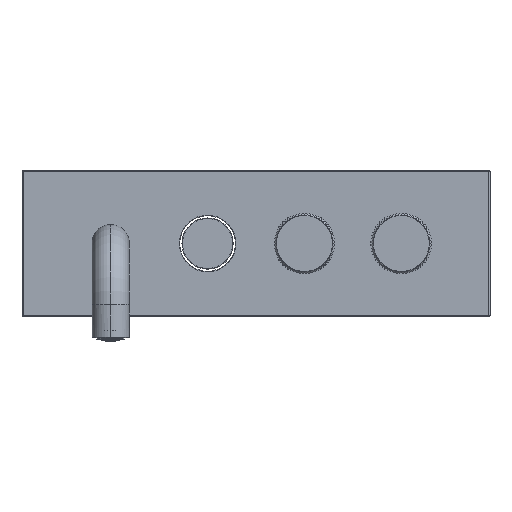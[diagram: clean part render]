
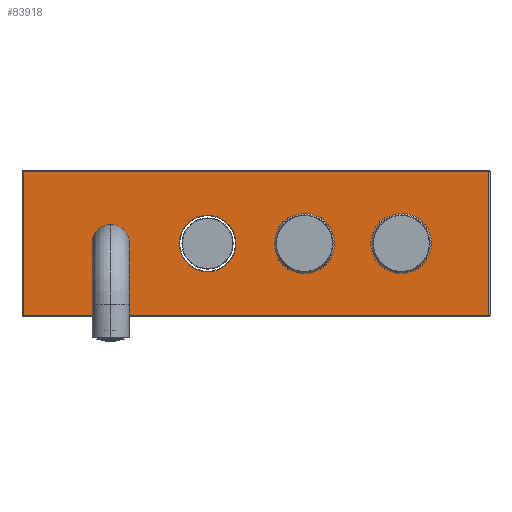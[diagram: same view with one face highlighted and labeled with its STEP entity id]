
A CAD part, top view. The second image highlights one B-rep face of the part: STEP entity #83918.
In plain terms, the highlighted planar face has unit normal (0, 0, 1).
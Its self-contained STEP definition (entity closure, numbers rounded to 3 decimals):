
#25151=DIRECTION('',(-1.,0.,0.));
#25152=VECTOR('',#25151,226.);
#25153=CARTESIAN_POINT('',(113.,35.,92.5));
#25154=LINE('',#25153,#25152);
#25155=DIRECTION('',(0.,1.,0.));
#25156=VECTOR('',#25155,70.);
#25157=CARTESIAN_POINT('',(113.,-35.,92.5));
#25158=LINE('',#25157,#25156);
#25159=DIRECTION('',(1.,0.,0.));
#25160=VECTOR('',#25159,226.);
#25161=CARTESIAN_POINT('',(-113.,-35.,92.5));
#25162=LINE('',#25161,#25160);
#25163=DIRECTION('',(0.,-1.,0.));
#25164=VECTOR('',#25163,70.);
#25165=CARTESIAN_POINT('',(-113.,35.,92.5));
#25166=LINE('',#25165,#25164);
#25167=CARTESIAN_POINT('',(-23.5,0.,92.5));
#25168=DIRECTION('',(0.,0.,-1.));
#25169=DIRECTION('',(-1.,0.,0.));
#25170=AXIS2_PLACEMENT_3D('',#25167,#25168,#25169);
#25172=CARTESIAN_POINT('',(-23.5,0.,92.5));
#25173=DIRECTION('',(0.,0.,-1.));
#25174=DIRECTION('',(1.,0.,0.));
#25175=AXIS2_PLACEMENT_3D('',#25172,#25173,#25174);
#25177=CARTESIAN_POINT('',(70.5,0.,92.5));
#25178=DIRECTION('',(0.,0.,-1.));
#25179=DIRECTION('',(-1.,0.,0.));
#25180=AXIS2_PLACEMENT_3D('',#25177,#25178,#25179);
#25182=CARTESIAN_POINT('',(70.5,0.,92.5));
#25183=DIRECTION('',(0.,0.,-1.));
#25184=DIRECTION('',(1.,0.,0.));
#25185=AXIS2_PLACEMENT_3D('',#25182,#25183,#25184);
#25187=CARTESIAN_POINT('',(23.5,0.,92.5));
#25188=DIRECTION('',(0.,0.,-1.));
#25189=DIRECTION('',(-1.,0.,0.));
#25190=AXIS2_PLACEMENT_3D('',#25187,#25188,#25189);
#25192=CARTESIAN_POINT('',(23.5,0.,92.5));
#25193=DIRECTION('',(0.,0.,-1.));
#25194=DIRECTION('',(1.,0.,0.));
#25195=AXIS2_PLACEMENT_3D('',#25192,#25193,#25194);
#25197=CARTESIAN_POINT('',(-70.5,0.,92.5));
#25198=DIRECTION('',(0.,0.,1.));
#25199=DIRECTION('',(0.,1.,0.));
#25200=AXIS2_PLACEMENT_3D('',#25197,#25198,#25199);
#25202=CARTESIAN_POINT('',(-70.5,0.,92.5));
#25203=DIRECTION('',(0.,0.,1.));
#25204=DIRECTION('',(0.,-1.,0.));
#25205=AXIS2_PLACEMENT_3D('',#25202,#25203,#25204);
#52256=CARTESIAN_POINT('',(113.,35.,92.5));
#52257=CARTESIAN_POINT('',(-113.,35.,92.5));
#52258=VERTEX_POINT('',#52256);
#52259=VERTEX_POINT('',#52257);
#52272=CARTESIAN_POINT('',(-113.,-35.,92.5));
#52273=VERTEX_POINT('',#52272);
#52282=CARTESIAN_POINT('',(113.,-35.,92.5));
#52283=VERTEX_POINT('',#52282);
#52404=CARTESIAN_POINT('',(-37.2,0.,92.5));
#52405=CARTESIAN_POINT('',(-9.8,0.,92.5));
#52406=VERTEX_POINT('',#52404);
#52407=VERTEX_POINT('',#52405);
#52420=CARTESIAN_POINT('',(63.3,0.,92.5));
#52421=CARTESIAN_POINT('',(77.7,0.,92.5));
#52422=VERTEX_POINT('',#52420);
#52423=VERTEX_POINT('',#52421);
#52436=CARTESIAN_POINT('',(16.3,0.,92.5));
#52437=CARTESIAN_POINT('',(30.7,0.,92.5));
#52438=VERTEX_POINT('',#52436);
#52439=VERTEX_POINT('',#52437);
#53120=CARTESIAN_POINT('',(-70.5,8.8,92.5));
#53121=CARTESIAN_POINT('',(-70.5,-8.8,92.5));
#53122=VERTEX_POINT('',#53120);
#53123=VERTEX_POINT('',#53121);
#83881=CARTESIAN_POINT('',(0.,0.,92.5));
#83882=DIRECTION('',(0.,0.,1.));
#83883=DIRECTION('',(1.,0.,0.));
#83884=AXIS2_PLACEMENT_3D('',#83881,#83882,#83883);
#83885=PLANE('',#83884);
#83886=ORIENTED_EDGE('',*,*,#83766,.F.);
#83888=ORIENTED_EDGE('',*,*,#83887,.F.);
#83889=ORIENTED_EDGE('',*,*,#83874,.F.);
#83891=ORIENTED_EDGE('',*,*,#83890,.F.);
#83892=EDGE_LOOP('',(#83886,#83888,#83889,#83891));
#83893=FACE_OUTER_BOUND('',#83892,.F.);
#83895=ORIENTED_EDGE('',*,*,#83894,.F.);
#83897=ORIENTED_EDGE('',*,*,#83896,.F.);
#83898=EDGE_LOOP('',(#83895,#83897));
#83899=FACE_BOUND('',#83898,.F.);
#83901=ORIENTED_EDGE('',*,*,#83900,.F.);
#83903=ORIENTED_EDGE('',*,*,#83902,.F.);
#83904=EDGE_LOOP('',(#83901,#83903));
#83905=FACE_BOUND('',#83904,.F.);
#83907=ORIENTED_EDGE('',*,*,#83906,.F.);
#83909=ORIENTED_EDGE('',*,*,#83908,.F.);
#83910=EDGE_LOOP('',(#83907,#83909));
#83911=FACE_BOUND('',#83910,.F.);
#83913=ORIENTED_EDGE('',*,*,#83912,.T.);
#83915=ORIENTED_EDGE('',*,*,#83914,.T.);
#83916=EDGE_LOOP('',(#83913,#83915));
#83917=FACE_BOUND('',#83916,.F.);
#83918=ADVANCED_FACE('',(#83893,#83899,#83905,#83911,#83917),#83885,.T.);
#25171=CIRCLE('',#25170,13.7);
#25176=CIRCLE('',#25175,13.7);
#25181=CIRCLE('',#25180,7.2);
#25186=CIRCLE('',#25185,7.2);
#25191=CIRCLE('',#25190,7.2);
#25196=CIRCLE('',#25195,7.2);
#25201=CIRCLE('',#25200,8.8);
#25206=CIRCLE('',#25205,8.8);
#83766=EDGE_CURVE('',#52258,#52259,#25154,.T.);
#83874=EDGE_CURVE('',#52273,#52283,#25162,.T.);
#83887=EDGE_CURVE('',#52283,#52258,#25158,.T.);
#83890=EDGE_CURVE('',#52259,#52273,#25166,.T.);
#83894=EDGE_CURVE('',#52406,#52407,#25171,.T.);
#83896=EDGE_CURVE('',#52407,#52406,#25176,.T.);
#83900=EDGE_CURVE('',#52422,#52423,#25181,.T.);
#83902=EDGE_CURVE('',#52423,#52422,#25186,.T.);
#83906=EDGE_CURVE('',#52438,#52439,#25191,.T.);
#83908=EDGE_CURVE('',#52439,#52438,#25196,.T.);
#83912=EDGE_CURVE('',#53122,#53123,#25201,.T.);
#83914=EDGE_CURVE('',#53123,#53122,#25206,.T.);
